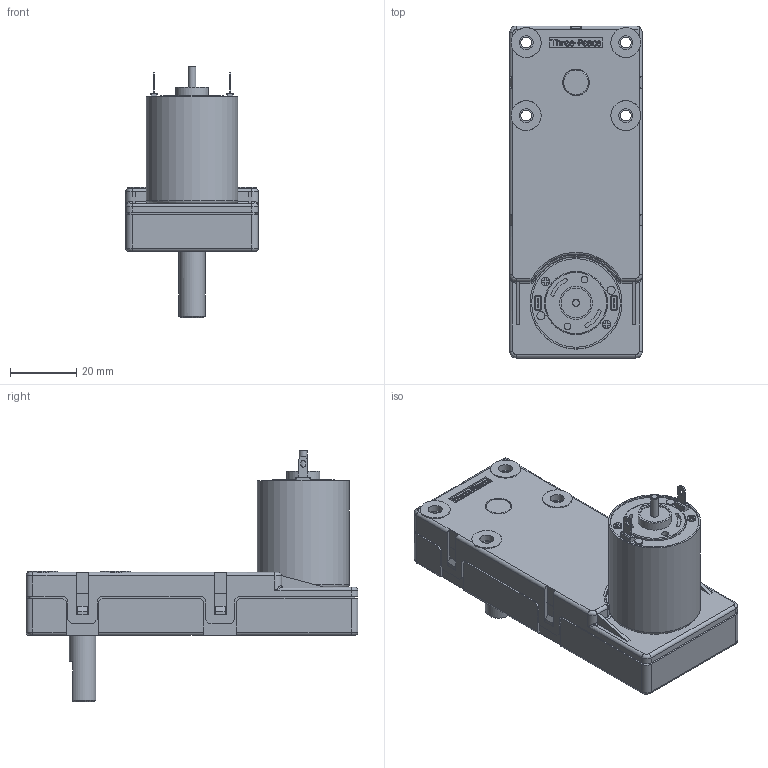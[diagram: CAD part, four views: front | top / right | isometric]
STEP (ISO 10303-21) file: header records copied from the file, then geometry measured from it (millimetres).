
FILE_DESCRIPTION((''),'2;1');
FILE_NAME('\\Servert1600\threepeace\2015homepage\STP\HP-Data_GM_3D_STEP\TP-2732D,E,F-IAL,IBL-70～450-J00-12,24.stp','2016-11-11T11:52:32',('Administrator'),(''),'Autodesk Inventor 2010','Autodesk Inventor 2010','');
FILE_SCHEMA(('AUTOMOTIVE_DESIGN { 1 0 10303 214 1 1 1 1 }'));
Length unit declared in the file: millimetre
Products named in the file (7): TP-2732D,E,F-IAL,IBL-70～450-J00-12,24; IAL,IBL; KE0016-HP; KE0015-HP; DS0026-HP; tp_2732d,e,f; M2
Assembly tree (24 placements, depth 3):
  TP-2732D,E,F-IAL,IBL-70～450-J00-12,24
    IAL,IBL
      KE0016-HP
      KE0015-HP
      DS0026-HP
    tp_2732d,e,f  x16
    M2  x4
Bounding box: 40 x 100 x 75.8 mm (x, y, z)
Surface area: 98359.4 mm2
Topology: 23 solids, 23 shells, 2639 faces, 6126 edges, 3916 vertices
Faces by surface type: plane 1622, cylinder 500, bspline 422, torus 80, cone 11, sphere 4
Full cylindrical faces by diameter (mm): 2 x32, 2.305 x32, 2.324 x4, 2.5 x80, 2.6 x4, 2.8 x2, 4.2 x12, 4.5 x2, 8 x3, 9 x36, 10 x33, 19 x16, 26.7 x16, 27.7 x16
Entity records: 25905 total; most frequent: CARTESIAN_POINT 7998, ORIENTED_EDGE 3912, DIRECTION 2983, EDGE_CURVE 1956, VERTEX_POINT 1316, VECTOR 1265, LINE 1265, EDGE_LOOP 946
